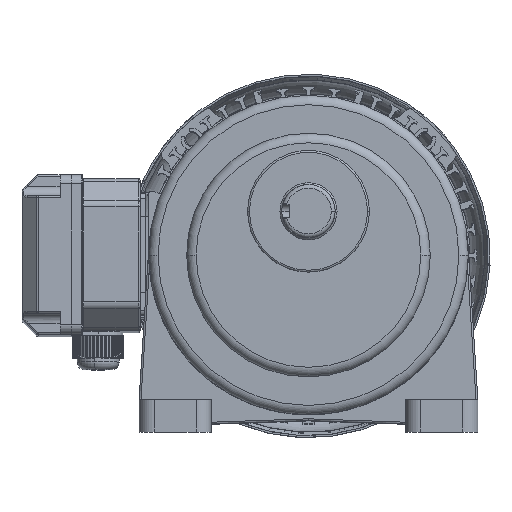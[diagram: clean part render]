
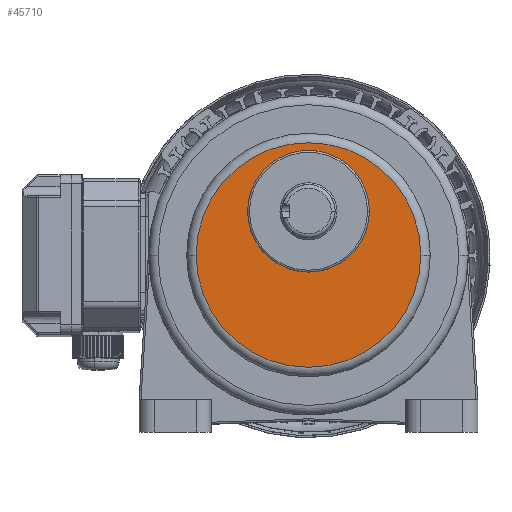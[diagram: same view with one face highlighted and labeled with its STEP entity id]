
A CAD part, top view. The second image highlights one B-rep face of the part: STEP entity #45710.
In plain terms, the highlighted planar face has unit normal (0, 0, 1).
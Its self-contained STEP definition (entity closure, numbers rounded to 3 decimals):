
#81 = VERTEX_POINT ( 'NONE', #56847 ) ;
#2266 = ORIENTED_EDGE ( 'NONE', *, *, #48571, .T. ) ;
#2454 = CARTESIAN_POINT ( 'NONE',  ( 0., 0., 286.5 ) ) ;
#3834 = CIRCLE ( 'NONE', #40549, 59. ) ;
#7879 = CARTESIAN_POINT ( 'NONE',  ( -59., 0., 286.5 ) ) ;
#8722 = CARTESIAN_POINT ( 'NONE',  ( 0., 23., 286.5 ) ) ;
#9921 = DIRECTION ( 'NONE',  ( 0., 0., 1. ) ) ;
#13927 = DIRECTION ( 'NONE',  ( 1., 0., 0. ) ) ;
#14811 = VERTEX_POINT ( 'NONE', #36838 ) ;
#14857 = FACE_BOUND ( 'NONE', #59739, .T. ) ;
#17111 = ORIENTED_EDGE ( 'NONE', *, *, #52655, .F. ) ;
#18420 = CIRCLE ( 'NONE', #55150, 59. ) ;
#19154 = EDGE_CURVE ( 'NONE', #24556, #19156, #18420, .T. ) ;
#19156 = VERTEX_POINT ( 'NONE', #62556 ) ;
#19481 = DIRECTION ( 'NONE',  ( 1., 0., 0. ) ) ;
#19966 = AXIS2_PLACEMENT_3D ( 'NONE', #8722, #28745, #48770 ) ;
#22469 = DIRECTION ( 'NONE',  ( 0., 0., 1. ) ) ;
#24556 = VERTEX_POINT ( 'NONE', #7879 ) ;
#26923 = CIRCLE ( 'NONE', #63651, 32. ) ;
#28745 = DIRECTION ( 'NONE',  ( 0., 0., 1. ) ) ;
#29971 = DIRECTION ( 'NONE',  ( 1., 0., 0. ) ) ;
#34913 = PLANE ( 'NONE',  #44421 ) ;
#36838 = CARTESIAN_POINT ( 'NONE',  ( -32., 23., 286.5 ) ) ;
#38922 = CARTESIAN_POINT ( 'NONE',  ( 0., 0., 286.5 ) ) ;
#40549 = AXIS2_PLACEMENT_3D ( 'NONE', #38922, #58942, #13927 ) ;
#42518 = DIRECTION ( 'NONE',  ( 1., 0., 0. ) ) ;
#44421 = AXIS2_PLACEMENT_3D ( 'NONE', #54935, #9921, #29971 ) ;
#44445 = CARTESIAN_POINT ( 'NONE',  ( 0., 23., 286.5 ) ) ;
#45710 = ADVANCED_FACE ( 'NONE', ( #59876, #14857 ), #34913, .T. ) ;
#46245 = EDGE_LOOP ( 'NONE', ( #2266, #58983 ) ) ;
#48301 = CIRCLE ( 'NONE', #19966, 32. ) ;
#48571 = EDGE_CURVE ( 'NONE', #19156, #24556, #3834, .T. ) ;
#48770 = DIRECTION ( 'NONE',  ( 1., 0., 0. ) ) ;
#52655 = EDGE_CURVE ( 'NONE', #14811, #81, #48301, .T. ) ;
#54935 = CARTESIAN_POINT ( 'NONE',  ( 0., 0., 286.5 ) ) ;
#55150 = AXIS2_PLACEMENT_3D ( 'NONE', #2454, #22469, #42518 ) ;
#56847 = CARTESIAN_POINT ( 'NONE',  ( 32., 23., 286.5 ) ) ;
#58194 = ORIENTED_EDGE ( 'NONE', *, *, #59854, .F. ) ;
#58942 = DIRECTION ( 'NONE',  ( 0., 0., 1. ) ) ;
#58983 = ORIENTED_EDGE ( 'NONE', *, *, #19154, .T. ) ;
#59739 = EDGE_LOOP ( 'NONE', ( #58194, #17111 ) ) ;
#59854 = EDGE_CURVE ( 'NONE', #81, #14811, #26923, .T. ) ;
#59876 = FACE_OUTER_BOUND ( 'NONE', #46245, .T. ) ;
#62556 = CARTESIAN_POINT ( 'NONE',  ( 59., 0., 286.5 ) ) ;
#63651 = AXIS2_PLACEMENT_3D ( 'NONE', #44445, #64495, #19481 ) ;
#64495 = DIRECTION ( 'NONE',  ( 0., 0., 1. ) ) ;
